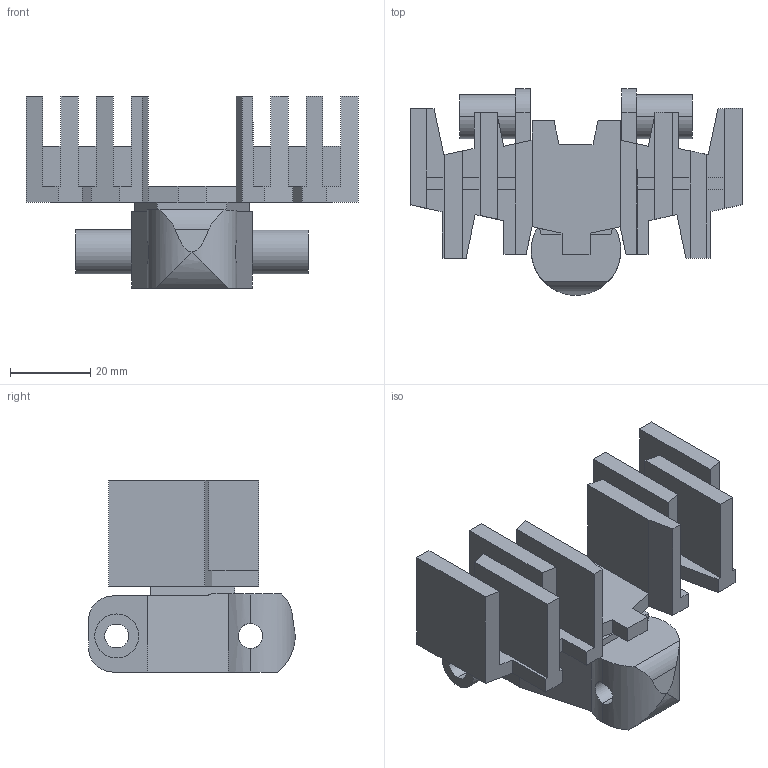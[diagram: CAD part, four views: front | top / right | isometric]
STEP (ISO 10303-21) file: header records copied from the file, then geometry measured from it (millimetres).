
FILE_DESCRIPTION (( 'STEP AP214' ), '1' );
FILE_NAME ('FMRB B.step', '2017-04-04T13:35:03', ( '' ), ( '' ), 'SwSTEP 2.0', 'SolidWorks 2015', '' );
FILE_SCHEMA (( 'AUTOMOTIVE_DESIGN' ));
Length unit declared in the file: millimetre
Products named in the file (1): FMRB B
Bounding box: 83 x 51.65 x 48 mm (x, y, z)
Volume: 46050.3 mm3; surface area: 23757.9 mm2
Topology: 1 solids, 1 shells, 151 faces, 431 edges, 283 vertices
Faces by surface type: plane 132, cylinder 19
Entity records: 5015 total; most frequent: CARTESIAN_POINT 1028, ORIENTED_EDGE 862, DIRECTION 755, EDGE_CURVE 431, LINE 391, VECTOR 391, VERTEX_POINT 283, AXIS2_PLACEMENT_3D 182
